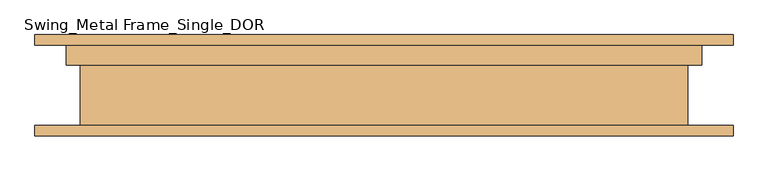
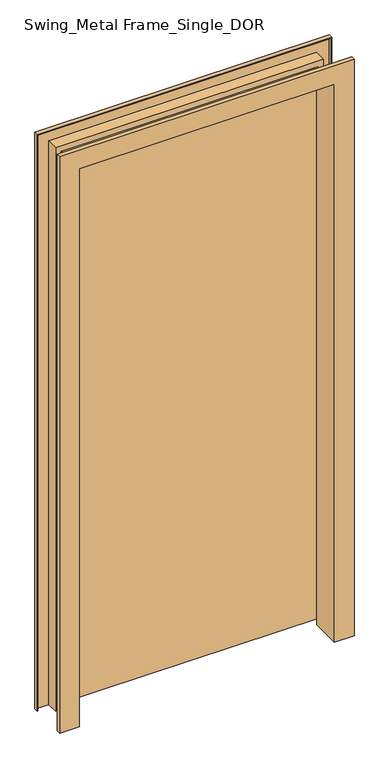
"""IFC4 building model written with IfcOpenShell, lengths in millimetres: door geometry, Swing_Metal Frame_Single_DOR : 2040h x 920 (2110x1020 STUD)."""

from ifc_helpers import new_model, si_unit, frame, origin, place, context, project, spatial, polyline, outline, extrude, faceted_brep, source, transform, mapped, element, save


def swing_metal_frame_single_dor_5afc5809(model_context):
    return source(origin(), model_context, "Body", "SolidModel", [
        extrude(outline(polyline([(460.0, 74.0), (460.0, 34.0), (-460.0, 34.0), (-460.0, 74.0), (460.0, 74.0)])), frame((0.0, 0.0, 20.0), z_axis=(0.0, 0.0, 1.0), x_axis=(1.0, 0.0, 0.0)), (0.0, 0.0, 1.0), 2040.0),
        faceted_brep([(-510.0, -74.0, 0.0), (-510.0, -59.0, 0.0), (-508.0, -59.0, 0.0), (-508.0, -72.0, 0.0), (-444.0, -72.0, 0.0), (-444.0, 30.0, 0.0), (-464.0, 30.0, 0.0), (-464.0, 72.0, 0.0), (-508.0, 72.0, 0.0), (-508.0, 59.0, 0.0), (-510.0, 59.0, 0.0), (-510.0, 74.0, 0.0), (-462.0, 74.0, 0.0), (-462.0, 32.0, 0.0), (-442.0, 32.0, 0.0), (-442.0, -74.0, 0.0), (-510.0, -74.0, 2110.0), (-510.0, -59.0, 2110.0), (510.0, -59.0, 2110.0), (510.0, -59.0, 0.0), (508.0, -59.0, 0.0), (508.0, -59.0, 2108.0), (-508.0, -59.0, 2108.0), (-508.0, -72.0, 2108.0), (508.0, -72.0, 2108.0), (508.0, -72.0, 0.0), (444.0, -72.0, 0.0), (444.0, -72.0, 2044.0), (-444.0, -72.0, 2044.0), (-444.0, 30.0, 2044.0), (444.0, 30.0, 2044.0), (444.0, 30.0, 0.0), (464.0, 30.0, 0.0), (464.0, 30.0, 2064.0), (-464.0, 30.0, 2064.0), (-464.0, 72.0, 2064.0), (464.0, 72.0, 2064.0), (464.0, 72.0, 0.0), (508.0, 72.0, 0.0), (508.0, 72.0, 2108.0), (-508.0, 72.0, 2108.0), (-508.0, 59.0, 2108.0), (508.0, 59.0, 2108.0), (508.0, 59.0, 0.0), (510.0, 59.0, 0.0), (510.0, 59.0, 2110.0), (-510.0, 59.0, 2110.0), (-510.0, 74.0, 2110.0), (510.0, 74.0, 2110.0), (510.0, 74.0, 0.0), (462.0, 74.0, 0.0), (462.0, 74.0, 2062.0), (-462.0, 74.0, 2062.0), (-462.0, 32.0, 2062.0), (462.0, 32.0, 2062.0), (462.0, 32.0, 0.0), (442.0, 32.0, 0.0), (442.0, 32.0, 2042.0), (-442.0, 32.0, 2042.0), (-442.0, -74.0, 2042.0), (442.0, -74.0, 2042.0), (442.0, -74.0, 0.0), (510.0, -74.0, 0.0), (510.0, -74.0, 2110.0)], [[[0, 1, 2, 3, 4, 5, 6, 7, 8, 9, 10, 11, 12, 13, 14, 15]], [[1, 0, 16, 17]], [[2, 1, 17, 18, 19, 20, 21, 22]], [[3, 2, 22, 23]], [[4, 3, 23, 24, 25, 26, 27, 28]], [[5, 4, 28, 29]], [[6, 5, 29, 30, 31, 32, 33, 34]], [[7, 6, 34, 35]], [[8, 7, 35, 36, 37, 38, 39, 40]], [[9, 8, 40, 41]], [[10, 9, 41, 42, 43, 44, 45, 46]], [[11, 10, 46, 47]], [[12, 11, 47, 48, 49, 50, 51, 52]], [[13, 12, 52, 53]], [[14, 13, 53, 54, 55, 56, 57, 58]], [[15, 14, 58, 59]], [[0, 15, 59, 60, 61, 62, 63, 16]], [[18, 63, 62, 19]], [[62, 61, 56, 55, 50, 49, 44, 43, 38, 37, 32, 31, 26, 25, 20, 19]], [[24, 21, 20, 25]], [[30, 27, 26, 31]], [[36, 33, 32, 37]], [[42, 39, 38, 43]], [[48, 45, 44, 49]], [[54, 51, 50, 55]], [[60, 57, 56, 61]], [[17, 16, 63, 18]], [[23, 22, 21, 24]], [[29, 28, 27, 30]], [[35, 34, 33, 36]], [[41, 40, 39, 42]], [[47, 46, 45, 48]], [[53, 52, 51, 54]], [[59, 58, 57, 60]]]),
    ])


if __name__ == "__main__":
    model = new_model("IFC4")
    model_context = context("Model", 3, world=origin())
    ifc_project = project(units=[si_unit("LENGTHUNIT", "METRE", prefix="MILLI")], contexts=[model_context])
    site = spatial("IfcSite", under=ifc_project)
    building = spatial("IfcBuilding", under=site)
    placement = place(None, origin())
    swing_metal_frame_single_dor_shape = swing_metal_frame_single_dor_5afc5809(model_context)
    element("IfcDoor", 1, ObjectType="Swing_Metal Frame_Single_DOR : 2040h x 920 (2110x1020 STUD)", at=placement, inside=building, context=model_context, shape_type="MappedRepresentation", body=[
        mapped(swing_metal_frame_single_dor_shape, transform((0.0, 0.0, 0.0), x_axis=(1.0, 0.0, 0.0), y_axis=(0.0, 1.0, 0.0), z_axis=(0.0, 0.0, 1.0))),
    ])
    save(model, "model.ifc")
